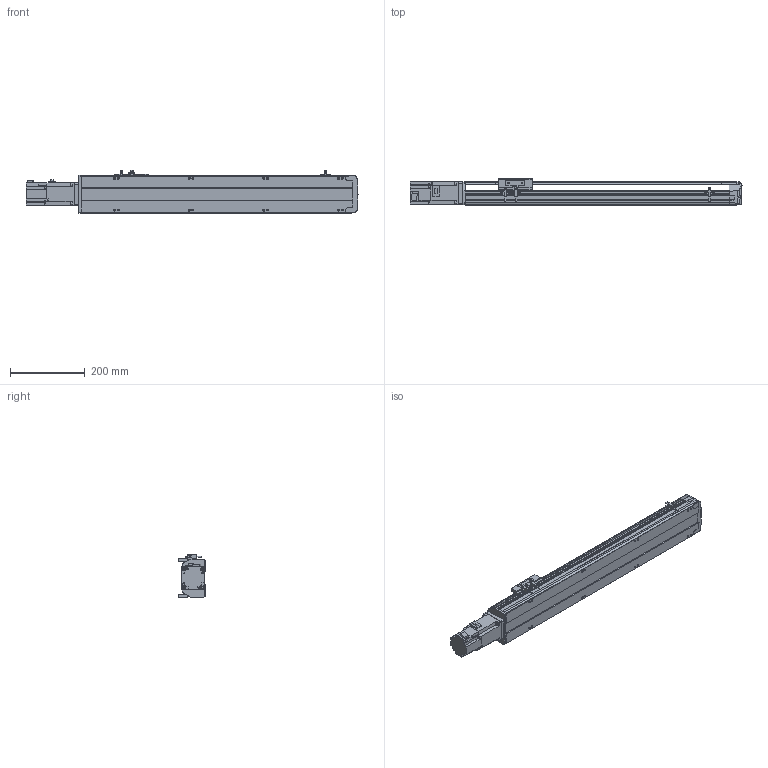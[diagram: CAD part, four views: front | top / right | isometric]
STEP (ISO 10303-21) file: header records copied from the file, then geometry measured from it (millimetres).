
FILE_DESCRIPTION(/* description */ ('STEP AP214'),/* implementation_level */ '2;1');
FILE_NAME(/* name */ 'PSS120-L10-S500-BC-T40-C1-N(0)',/* time_stamp */ '2022-06-02T02:33:10+02:00',/* author */ ('License CC BY-ND 4.0'),/* organization */ ('CADENAS'),/* preprocessor_version */ 'ST-DEVELOPER v18.102',/* originating_system */ 'PARTsolutions',/* authorisation */ ' ');
FILE_SCHEMA (('AUTOMOTIVE_DESIGN {1 0 10303 214 3 1 1}'));
Length unit declared in the file: millimetre
Products named in the file (8): PSS120-L10-S500-BC-T40-C1-N(0); PSS120-S500-BC-N_S; T40-p1; PSS120BC-N_h; PSS120-N_sensor; PSS120-BC-C1-N_sl; PSS120-N_Q; PSS120-S500-BC-C1-N_body
Assembly tree (9 placements, depth 2):
  PSS120-L10-S500-BC-T40-C1-N(0)
    PSS120-S500-BC-N_S
    T40-p1
    PSS120BC-N_h
    PSS120-N_sensor  x3
    PSS120-BC-C1-N_sl
    PSS120-N_Q
    PSS120-S500-BC-C1-N_body
Bounding box: 888.7 x 70 x 117.7 mm (x, y, z)
Volume: 2888372.8 mm3; surface area: 523147.1 mm2
Topology: 9 solids, 9 shells, 801 faces, 2144 edges, 1422 vertices
Faces by surface type: plane 547, cylinder 234, cone 20
Full cylindrical faces by diameter (mm): 2.8 x3, 4 x4, 4.134 x12, 4.2 x4, 4.4 x2, 4.5 x4, 4.6 x3, 4.917 x4, 5 x6, 5.5 x15, 7 x2, 8 x8, 8.5 x12, 14 x1, 28 x1, 32 x1, 50 x1
Entity records: 21484 total; most frequent: CARTESIAN_POINT 3866, DIRECTION 3599, ORIENTED_EDGE 3490, EDGE_CURVE 1745, LINE 1233, VECTOR 1233, VERTEX_POINT 1214, AXIS2_PLACEMENT_3D 1183
